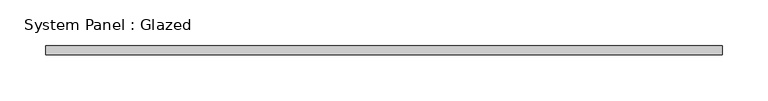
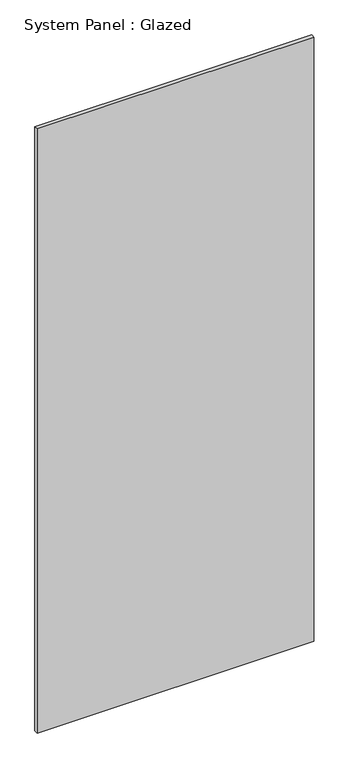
"""IFC4 building model written with IfcOpenShell, lengths in millimetres: plate geometry, System Panel : Glazed."""

from ifc_helpers import new_model, si_unit, origin, origin_with_axes, place, context, project, spatial, polyline, outline, extrude, source, transform, mapped, element, save


def system_panel_glazed_14bef62c(model_context):
    return source(origin(), model_context, "Body", "SweptSolid", [
        extrude(outline(polyline([(371.3791708, -5.0), (-371.3791708, -5.0), (-371.3791708, 5.0), (371.3791708, 5.0), (371.3791708, -5.0)])), origin_with_axes(), (0.0, 0.0, 1.0), 1714.0975405),
    ])


if __name__ == "__main__":
    model = new_model("IFC4")
    model_context = context("Model", 3, world=origin())
    ifc_project = project(units=[si_unit("LENGTHUNIT", "METRE", prefix="MILLI")], contexts=[model_context])
    site = spatial("IfcSite", under=ifc_project)
    building = spatial("IfcBuilding", under=site)
    placement = place(None, origin())
    system_panel_glazed_shape = system_panel_glazed_14bef62c(model_context)
    element("IfcPlate", 1, ObjectType="System Panel : Glazed", at=placement, inside=building, context=model_context, shape_type="MappedRepresentation", body=[
        mapped(system_panel_glazed_shape, transform((0.0, 0.0, 0.0), x_axis=(1.0, 0.0, 0.0), y_axis=(0.0, 1.0, 0.0), z_axis=(0.0, 0.0, 1.0))),
    ])
    save(model, "model.ifc")
